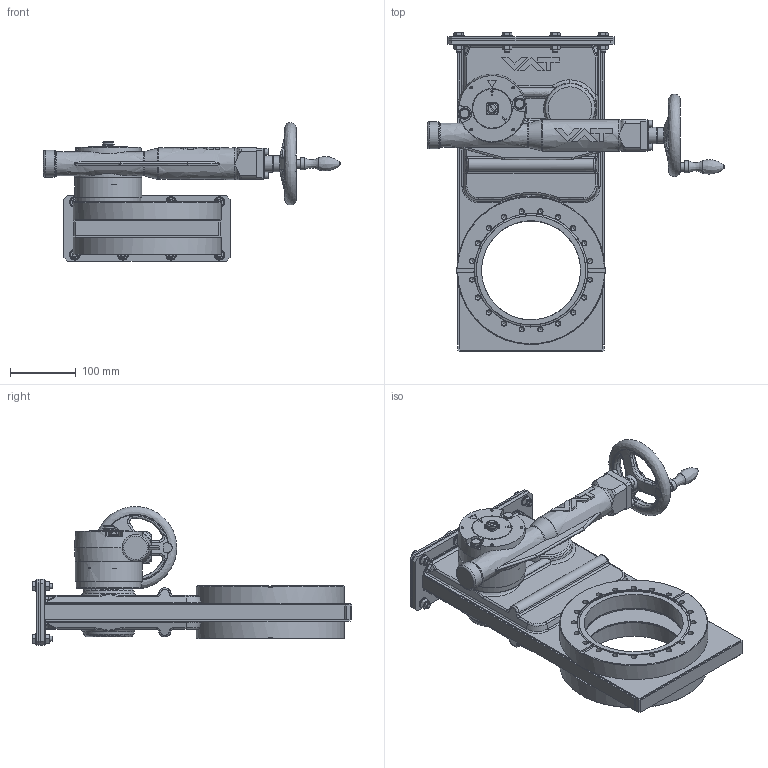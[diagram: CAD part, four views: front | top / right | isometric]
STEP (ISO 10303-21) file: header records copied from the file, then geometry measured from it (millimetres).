
FILE_DESCRIPTION((''),'2;1');
FILE_NAME('O:\MT\MT\Systeme\Cad\Datenexporte\www_vat_ch\228695.stp','2004-07-07T09:09:49',('User'),('SDRC'),'I-DEAS Master Series 9','UNIX','Yes');
FILE_SCHEMA(('CONFIG_CONTROL_DESIGN'));
Length unit declared in the file: millimetre
Assembly tree (67 placements, depth 0):
Bounding box: 450.4 x 483.9 x 210.38 mm (x, y, z)
Volume: 3124563.4 mm3; surface area: 993121.3 mm2
Topology: 92 solids, 93 shells, 1596 faces, 3603 edges, 2273 vertices
Faces by surface type: bspline 1596
Entity records: 42950 total; most frequent: CARTESIAN_POINT 22858, ORIENTED_EDGE 5014, EDGE_CURVE 2505, VERTEX_POINT 1600, EDGE_LOOP 1267, FACE_OUTER_BOUND 1055, ADVANCED_FACE 1055, B_SPLINE_CURVE_WITH_KNOTS 872
